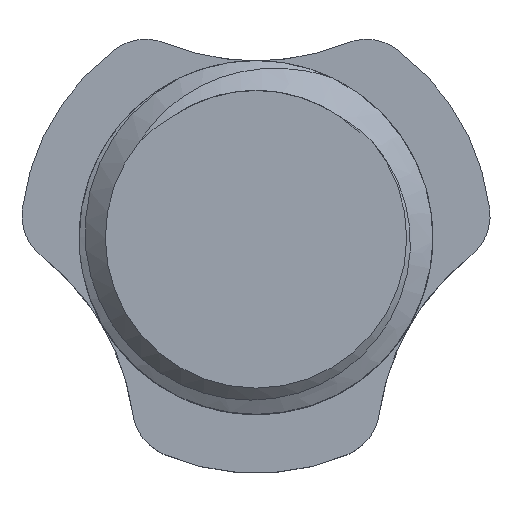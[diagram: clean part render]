
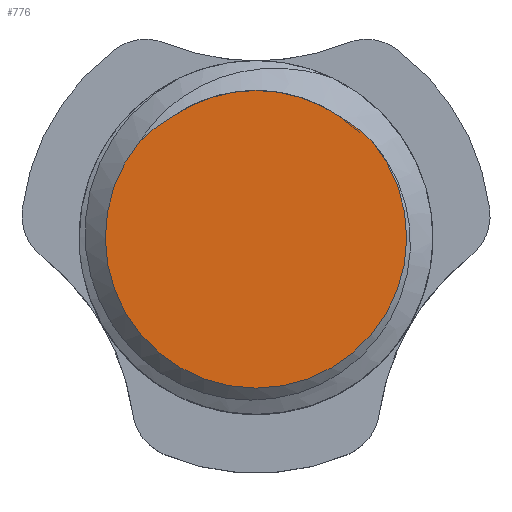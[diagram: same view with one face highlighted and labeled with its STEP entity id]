
A CAD part, top view. The second image highlights one B-rep face of the part: STEP entity #776.
In plain terms, the highlighted planar face has unit normal (0, 0, 1).
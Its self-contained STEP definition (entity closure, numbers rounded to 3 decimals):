
#41=PLANE('',#870);
#85=FACE_OUTER_BOUND('',#130,.T.);
#130=EDGE_LOOP('',(#707,#708,#709,#710));
#131=CIRCLE('',#793,5.617);
#165=CIRCLE('',#864,5.761);
#189=B_SPLINE_CURVE_WITH_KNOTS('',3,(#2469,#2470,#2471,#2472,#2473,#2474,
#2475,#2476,#2477,#2478,#2479,#2480,#2481),.UNSPECIFIED.,.F.,.F.,(4,3,3,
3,4),(1.145,1.194,1.245,1.292,
1.295),.UNSPECIFIED.);
#191=B_SPLINE_CURVE_WITH_KNOTS('',3,(#2774,#2775,#2776,#2777,#2778,#2779,
#2780,#2781,#2782,#2783,#2784,#2785,#2786),.UNSPECIFIED.,.F.,.F.,(4,3,3,
3,4),(0.,0.049,0.078,0.126,0.15),
 .UNSPECIFIED.);
#298=VERTEX_POINT('',#1093);
#299=VERTEX_POINT('',#1109);
#364=VERTEX_POINT('',#1687);
#365=VERTEX_POINT('',#1962);
#371=EDGE_CURVE('',#299,#298,#131,.T.);
#471=EDGE_CURVE('',#364,#365,#165,.T.);
#477=EDGE_CURVE('',#364,#299,#189,.T.);
#479=EDGE_CURVE('',#298,#365,#191,.T.);
#707=ORIENTED_EDGE('',*,*,#471,.F.);
#708=ORIENTED_EDGE('',*,*,#477,.T.);
#709=ORIENTED_EDGE('',*,*,#371,.T.);
#710=ORIENTED_EDGE('',*,*,#479,.T.);
#776=ADVANCED_FACE('',(#85),#41,.T.);
#793=AXIS2_PLACEMENT_3D('',#1110,#879,#880);
#864=AXIS2_PLACEMENT_3D('',#1963,#1071,#1072);
#870=AXIS2_PLACEMENT_3D('',#2920,#1083,#1084);
#879=DIRECTION('center_axis',(0.,0.,1.));
#880=DIRECTION('ref_axis',(1.,0.,0.));
#1071=DIRECTION('center_axis',(0.,0.,-1.));
#1072=DIRECTION('ref_axis',(1.,0.,0.));
#1083=DIRECTION('center_axis',(0.,0.,1.));
#1084=DIRECTION('ref_axis',(1.,0.,0.));
#1093=CARTESIAN_POINT('',(-3.261,4.573,9.));
#1109=CARTESIAN_POINT('',(3.261,4.573,9.));
#1110=CARTESIAN_POINT('Origin',(0.,0.,9.));
#1687=CARTESIAN_POINT('',(4.443,3.668,9.));
#1962=CARTESIAN_POINT('',(-4.443,3.668,9.));
#1963=CARTESIAN_POINT('Origin',(0.,0.,9.));
#2469=CARTESIAN_POINT('Ctrl Pts',(4.442,3.667,9.));
#2470=CARTESIAN_POINT('Ctrl Pts',(4.327,3.782,9.));
#2471=CARTESIAN_POINT('Ctrl Pts',(4.208,3.892,9.));
#2472=CARTESIAN_POINT('Ctrl Pts',(4.084,3.996,9.));
#2473=CARTESIAN_POINT('Ctrl Pts',(3.956,4.104,9.));
#2474=CARTESIAN_POINT('Ctrl Pts',(3.823,4.207,9.));
#2475=CARTESIAN_POINT('Ctrl Pts',(3.686,4.303,9.));
#2476=CARTESIAN_POINT('Ctrl Pts',(3.557,4.394,9.));
#2477=CARTESIAN_POINT('Ctrl Pts',(3.424,4.479,9.));
#2478=CARTESIAN_POINT('Ctrl Pts',(3.287,4.558,9.));
#2479=CARTESIAN_POINT('Ctrl Pts',(3.278,4.563,9.));
#2480=CARTESIAN_POINT('Ctrl Pts',(3.27,4.568,9.));
#2481=CARTESIAN_POINT('Ctrl Pts',(3.261,4.573,9.));
#2774=CARTESIAN_POINT('Ctrl Pts',(-3.261,4.573,9.));
#2775=CARTESIAN_POINT('Ctrl Pts',(-3.402,4.493,9.));
#2776=CARTESIAN_POINT('Ctrl Pts',(-3.538,4.406,9.));
#2777=CARTESIAN_POINT('Ctrl Pts',(-3.671,4.314,9.));
#2778=CARTESIAN_POINT('Ctrl Pts',(-3.752,4.258,9.));
#2779=CARTESIAN_POINT('Ctrl Pts',(-3.831,4.2,9.));
#2780=CARTESIAN_POINT('Ctrl Pts',(-3.908,4.14,9.));
#2781=CARTESIAN_POINT('Ctrl Pts',(-4.035,4.041,9.));
#2782=CARTESIAN_POINT('Ctrl Pts',(-4.157,3.938,9.));
#2783=CARTESIAN_POINT('Ctrl Pts',(-4.275,3.829,9.));
#2784=CARTESIAN_POINT('Ctrl Pts',(-4.332,3.776,9.));
#2785=CARTESIAN_POINT('Ctrl Pts',(-4.388,3.723,9.));
#2786=CARTESIAN_POINT('Ctrl Pts',(-4.442,3.668,9.));
#2920=CARTESIAN_POINT('Origin',(0.,0.,9.));
